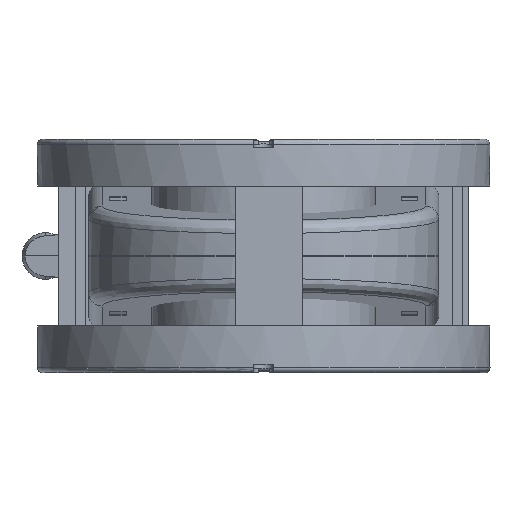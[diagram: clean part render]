
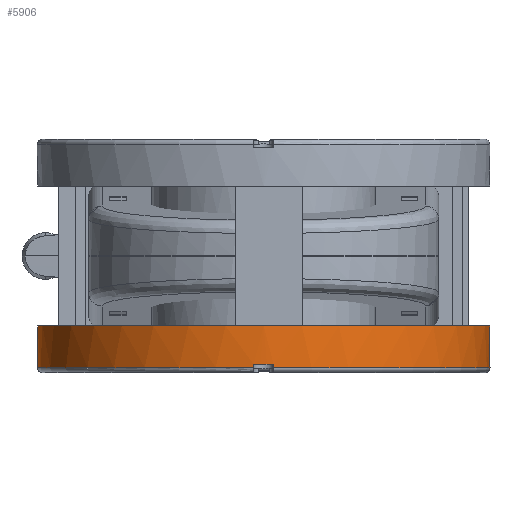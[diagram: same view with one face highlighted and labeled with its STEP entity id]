
A CAD part, front view. The second image highlights one B-rep face of the part: STEP entity #5906.
In plain terms, the highlighted cylindrical face has radius 67.9 mm (diameter 135.8 mm), a full revolution.
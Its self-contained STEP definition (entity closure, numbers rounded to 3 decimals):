
#3659=ELLIPSE('',#22029,68.159,67.9);
#4361=CYLINDRICAL_SURFACE('',#22034,67.9);
#5906=ADVANCED_FACE('',(#9748,#9749),#4361,.T.);
#7779=LINE('',#33145,#9196);
#7780=LINE('',#33149,#9197);
#7781=LINE('',#33153,#9198);
#7782=LINE('',#33157,#9199);
#9196=VECTOR('',#26372,1.);
#9197=VECTOR('',#26375,1.);
#9198=VECTOR('',#26378,1.);
#9199=VECTOR('',#26381,1.);
#9748=FACE_BOUND('',#10888,.T.);
#9749=FACE_BOUND('',#10889,.T.);
#10888=EDGE_LOOP('',(#15190,#15191));
#10889=EDGE_LOOP('',(#15192,#15193,#15194,#15195,#15196,#15197,#15198,#15199));
#15190=ORIENTED_EDGE('',*,*,#19564,.F.);
#15191=ORIENTED_EDGE('',*,*,#19565,.T.);
#15192=ORIENTED_EDGE('',*,*,#19566,.F.);
#15193=ORIENTED_EDGE('',*,*,#19567,.T.);
#15194=ORIENTED_EDGE('',*,*,#19568,.T.);
#15195=ORIENTED_EDGE('',*,*,#19569,.F.);
#15196=ORIENTED_EDGE('',*,*,#19570,.T.);
#15197=ORIENTED_EDGE('',*,*,#19571,.F.);
#15198=ORIENTED_EDGE('',*,*,#19572,.T.);
#15199=ORIENTED_EDGE('',*,*,#19573,.T.);
#17287=VERTEX_POINT('',#33139);
#17288=VERTEX_POINT('',#33140);
#17289=VERTEX_POINT('',#33143);
#17290=VERTEX_POINT('',#33144);
#17291=VERTEX_POINT('',#33146);
#17292=VERTEX_POINT('',#33148);
#17293=VERTEX_POINT('',#33150);
#17294=VERTEX_POINT('',#33152);
#17295=VERTEX_POINT('',#33154);
#17296=VERTEX_POINT('',#33156);
#19564=EDGE_CURVE('',#17287,#17288,#20535,.T.);
#19565=EDGE_CURVE('',#17287,#17288,#3659,.T.);
#19566=EDGE_CURVE('',#17289,#17290,#20536,.T.);
#19567=EDGE_CURVE('',#17289,#17291,#7779,.T.);
#19568=EDGE_CURVE('',#17291,#17292,#20537,.T.);
#19569=EDGE_CURVE('',#17293,#17292,#7780,.T.);
#19570=EDGE_CURVE('',#17293,#17294,#20538,.T.);
#19571=EDGE_CURVE('',#17295,#17294,#7781,.T.);
#19572=EDGE_CURVE('',#17295,#17296,#20539,.T.);
#19573=EDGE_CURVE('',#17296,#17290,#7782,.T.);
#20535=CIRCLE('',#22028,67.9);
#20536=CIRCLE('',#22030,67.9);
#20537=CIRCLE('',#22031,67.9);
#20538=CIRCLE('',#22032,67.9);
#20539=CIRCLE('',#22033,67.9);
#22028=AXIS2_PLACEMENT_3D('',#33138,#26366,#26367);
#22029=AXIS2_PLACEMENT_3D('',#33141,#26368,#26369);
#22030=AXIS2_PLACEMENT_3D('',#33142,#26370,#26371);
#22031=AXIS2_PLACEMENT_3D('',#33147,#26373,#26374);
#22032=AXIS2_PLACEMENT_3D('',#33151,#26376,#26377);
#22033=AXIS2_PLACEMENT_3D('',#33155,#26379,#26380);
#22034=AXIS2_PLACEMENT_3D('',#33158,#26382,#26383);
#26366=DIRECTION('',(1.,0.,0.));
#26367=DIRECTION('',(0.,1.,0.));
#26368=DIRECTION('',(-0.996,-0.087,0.));
#26369=DIRECTION('',(0.087,-0.996,0.));
#26370=DIRECTION('',(-1.,0.,0.));
#26371=DIRECTION('',(0.,0.,-1.));
#26372=DIRECTION('',(-1.,0.,0.));
#26373=DIRECTION('',(1.,0.,0.));
#26374=DIRECTION('',(0.,1.,0.));
#26375=DIRECTION('',(-1.,0.,0.));
#26376=DIRECTION('',(1.,0.,0.));
#26377=DIRECTION('',(0.,-1.,0.));
#26378=DIRECTION('',(1.,0.,0.));
#26379=DIRECTION('',(1.,0.,0.));
#26380=DIRECTION('',(0.,1.,0.));
#26381=DIRECTION('',(1.,0.,0.));
#26382=DIRECTION('',(1.,0.,0.));
#26383=DIRECTION('',(0.,1.,0.));
#33138=CARTESIAN_POINT('',(14.,0.,0.));
#33139=CARTESIAN_POINT('',(14.,61.784,28.163));
#33140=CARTESIAN_POINT('',(14.,61.784,-28.163));
#33141=CARTESIAN_POINT('',(19.405,0.,0.));
#33142=CARTESIAN_POINT('',(2.5,0.,0.));
#33143=CARTESIAN_POINT('',(2.5,-67.834,-3.));
#33144=CARTESIAN_POINT('',(2.5,-67.834,3.));
#33145=CARTESIAN_POINT('',(21.4,-67.834,-3.));
#33146=CARTESIAN_POINT('',(1.5,-67.834,-3.));
#33147=CARTESIAN_POINT('',(1.5,0.,0.));
#33148=CARTESIAN_POINT('',(1.5,67.834,-3.));
#33149=CARTESIAN_POINT('',(21.4,67.834,-3.));
#33150=CARTESIAN_POINT('',(2.5,67.834,-3.));
#33151=CARTESIAN_POINT('',(2.5,0.,0.));
#33152=CARTESIAN_POINT('',(2.5,67.834,3.));
#33153=CARTESIAN_POINT('',(21.4,67.834,3.));
#33154=CARTESIAN_POINT('',(1.5,67.834,3.));
#33155=CARTESIAN_POINT('',(1.5,0.,0.));
#33156=CARTESIAN_POINT('',(1.5,-67.834,3.));
#33157=CARTESIAN_POINT('',(21.4,-67.834,3.));
#33158=CARTESIAN_POINT('',(21.4,0.,0.));
